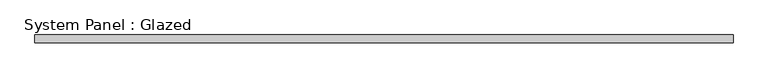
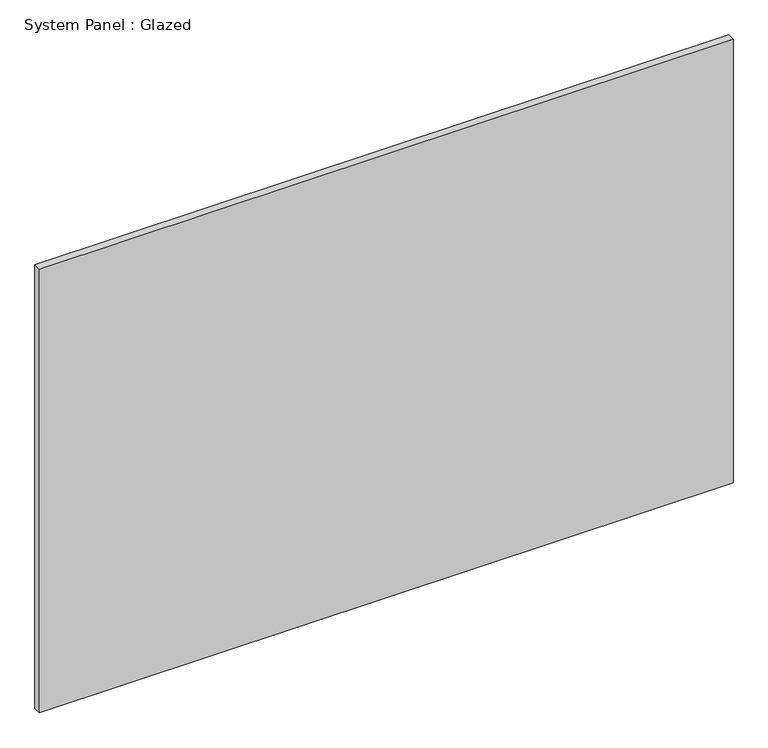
"""IFC4 building model written with IfcOpenShell, lengths in millimetres: plate geometry, System Panel : Glazed."""

from ifc_helpers import new_model, si_unit, origin, origin_with_axes, place, context, project, spatial, polyline, outline, extrude, source, transform, mapped, element, save


def system_panel_glazed_af69fdf6(model_context):
    return source(origin(), model_context, "Body", "SweptSolid", [
        extrude(outline(polyline([(1127.125, 19.05), (-1127.125, 19.05), (-1127.125, 44.45), (1127.125, 44.45), (1127.125, 19.05)])), origin_with_axes(), (0.0, 0.0, 1.0), 1524.0),
    ])


if __name__ == "__main__":
    model = new_model("IFC4")
    model_context = context("Model", 3, world=origin())
    ifc_project = project(units=[si_unit("LENGTHUNIT", "METRE", prefix="MILLI")], contexts=[model_context])
    site = spatial("IfcSite", under=ifc_project)
    building = spatial("IfcBuilding", under=site)
    placement = place(None, origin())
    system_panel_glazed_shape = system_panel_glazed_af69fdf6(model_context)
    element("IfcPlate", 1, ObjectType="System Panel : Glazed", at=placement, inside=building, context=model_context, shape_type="MappedRepresentation", body=[
        mapped(system_panel_glazed_shape, transform((0.0, 0.0, 0.0), x_axis=(1.0, 0.0, 0.0), y_axis=(0.0, 1.0, 0.0), z_axis=(0.0, 0.0, 1.0))),
    ])
    save(model, "model.ifc")
